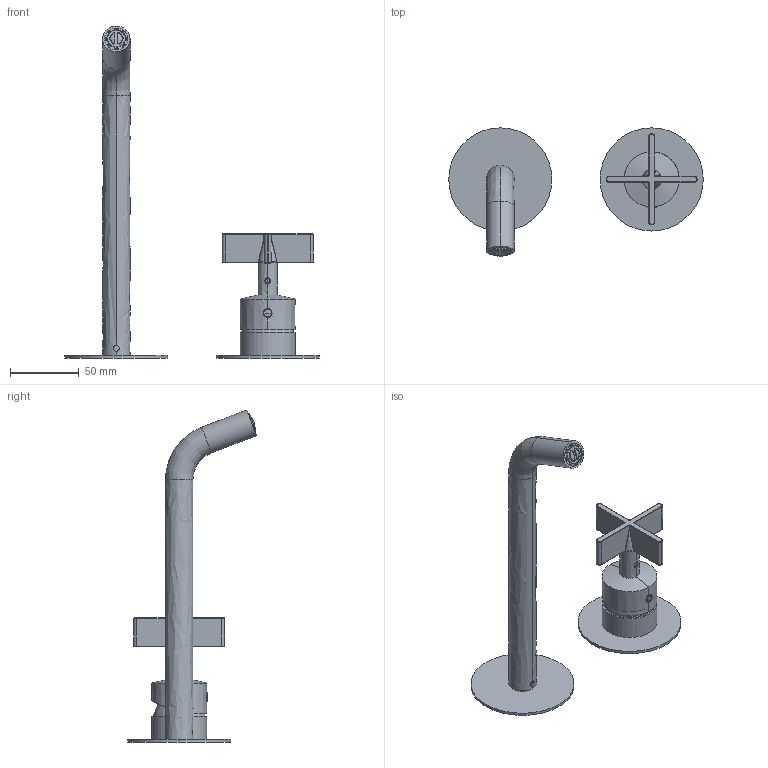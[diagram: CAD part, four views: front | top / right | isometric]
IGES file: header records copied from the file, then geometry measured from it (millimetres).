
Start section:  PTC IGES file: 39537A.igs
Global section: file name: 39537A.igs; native system: Creo Parametric by PTC Inc.; preprocessor: 2022014; author: carloff; organization: Unknown; date: 20241205.095108; units: millimetre
Bounding box: 185 x 93.65 x 241.34 mm (x, y, z)
Surface area: 78198.5 mm2 (no closed solid volume)
Topology: 0 solids, 0 shells, 1958 faces, 11332 edges, 11320 vertices
Faces by surface type: bspline 1510, revolution 445, extrusion 3
